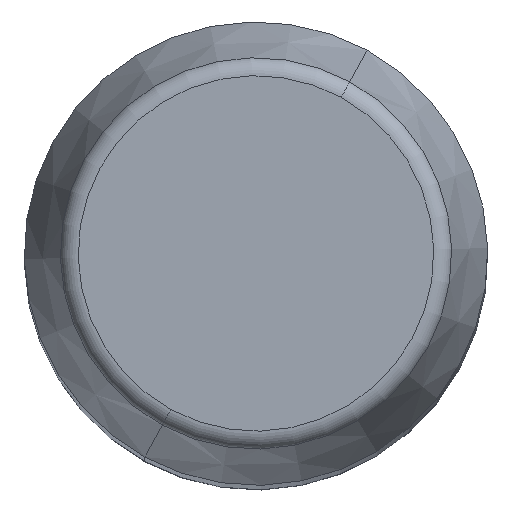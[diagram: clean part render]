
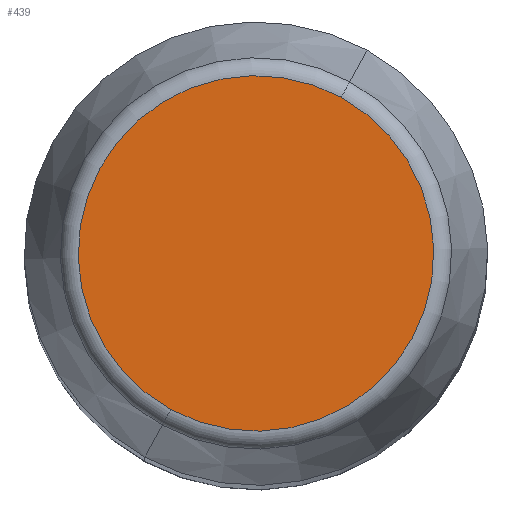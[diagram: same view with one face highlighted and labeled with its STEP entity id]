
A CAD part, top view. The second image highlights one B-rep face of the part: STEP entity #439.
In plain terms, the highlighted planar face has unit normal (0, 0, 1).
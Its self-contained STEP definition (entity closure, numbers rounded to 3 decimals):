
#391=CARTESIAN_POINT('Vertex',(-4.597,-8.415,160.)) ;
#394=CARTESIAN_POINT('Axis2P3D Location',(0.,0.,160.)) ;
#398=CARTESIAN_POINT('Vertex',(4.597,8.415,160.)) ;
#418=CARTESIAN_POINT('Axis2P3D Location',(0.,0.,160.)) ;
#430=CARTESIAN_POINT('Axis2P3D Location',(0.,9.589,160.)) ;
#395=DIRECTION('Axis2P3D Direction',(0.,0.,-1.)) ;
#419=DIRECTION('Axis2P3D Direction',(0.,0.,-1.)) ;
#431=DIRECTION('Axis2P3D Direction',(0.,0.,-1.)) ;
#432=DIRECTION('Axis2P3D XDirection',(1.,0.,0.)) ;
#396=AXIS2_PLACEMENT_3D('Circle Axis2P3D',#394,#395,$) ;
#420=AXIS2_PLACEMENT_3D('Circle Axis2P3D',#418,#419,$) ;
#433=AXIS2_PLACEMENT_3D('Plane Axis2P3D',#430,#431,#432) ;
#436=ORIENTED_EDGE('',*,*,#422,.F.) ;
#437=ORIENTED_EDGE('',*,*,#400,.F.) ;
#439=ADVANCED_FACE('PartBody',(#438),#434,.F.) ;
#397=CIRCLE('generated circle',#396,9.589) ;
#421=CIRCLE('generated circle',#420,9.589) ;
#400=EDGE_CURVE('',#392,#399,#397,.T.) ;
#422=EDGE_CURVE('',#399,#392,#421,.T.) ;
#435=EDGE_LOOP('',(#436,#437)) ;
#438=FACE_OUTER_BOUND('',#435,.T.) ;
#434=PLANE('Plane',#433) ;
#392=VERTEX_POINT('',#391) ;
#399=VERTEX_POINT('',#398) ;
